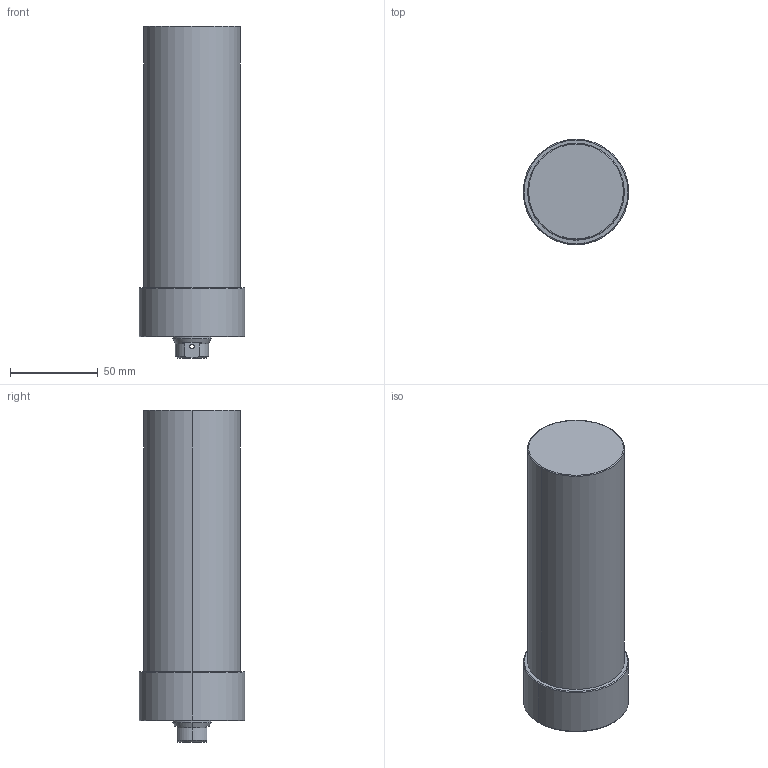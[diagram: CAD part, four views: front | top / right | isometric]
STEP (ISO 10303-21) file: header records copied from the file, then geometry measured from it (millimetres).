
FILE_DESCRIPTION (( 'STEP AP203' ), '1' );
FILE_NAME ('CLLU-055GB-120.STEP', '2020-01-06T07:23:07', ( '' ), ( '' ), 'SwSTEP 2.0', 'SolidWorks 2015', '' );
FILE_SCHEMA (( 'CONFIG_CONTROL_DESIGN' ));
Length unit declared in the file: millimetre
Products named in the file (1): CLLU-055GB-120
Bounding box: 60 x 60 x 189 mm (x, y, z)
Volume: 433457.4 mm3; surface area: 39116.5 mm2
Topology: 1 solids, 1 shells, 68 faces, 155 edges, 88 vertices
Faces by surface type: cylinder 27, cone 25, plane 10, torus 6
Entity records: 2021 total; most frequent: CARTESIAN_POINT 422, DIRECTION 350, ORIENTED_EDGE 290, AXIS2_PLACEMENT_3D 148, EDGE_CURVE 145, VERTEX_POINT 88, EDGE_LOOP 81, CIRCLE 79
